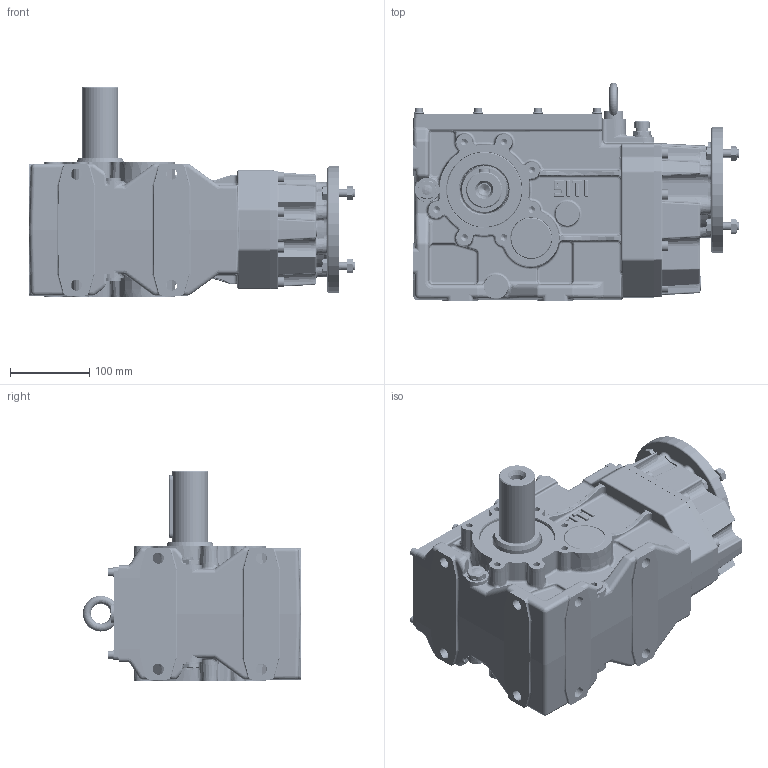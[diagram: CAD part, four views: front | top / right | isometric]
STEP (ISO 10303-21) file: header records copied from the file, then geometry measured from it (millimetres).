
FILE_DESCRIPTION((''),'2;1');
FILE_NAME('O:\Figurini\Figurini BH\3D\80\MBH 80 MS-B PAM 71 B5.stp','2013-05-31T16:09:21',('d.iannaccio'),(''),'Autodesk Inventor 2012','Autodesk Inventor 2012','');
FILE_SCHEMA(('AUTOMOTIVE_DESIGN { 1 0 10303 214 1 1 1 1 }'));
Length unit declared in the file: millimetre
Products named in the file (1): MBH_80 MS-B PAM 71 B5
Bounding box: 411.5 x 274.95 x 265 mm (x, y, z)
Volume: 4259871.3 mm3; surface area: 884522 mm2
Topology: 2 solids, 68 shells, 3846 faces, 9279 edges, 5588 vertices
Faces by surface type: plane 1120, cylinder 1063, bspline 800, cone 404, torus 356, sphere 103
Full cylindrical faces by diameter (mm): 4.917 x8, 6 x16, 6.4 x8, 6.647 x16, 7 x8, 8 x14, 8.376 x15, 8.5 x2, 9 x12, 10 x24, 11.445 x1, 12 x1, 12.5 x8, 13 x16, 13.835 x1, 14 x16, 14.63 x4, 14.95 x7, 15.95 x1, 16 x3, 17 x2, 18 x1, 19.5 x1, 20 x2, 20.4 x1, 25 x1, 33 x1, 34.58 x1, 34.9 x1, 34.98 x2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
Entity records: 133357 total; most frequent: CARTESIAN_POINT 47265, ORIENTED_EDGE 16890, DIRECTION 16585, EDGE_CURVE 8445, AXIS2_PLACEMENT_3D 6871, VERTEX_POINT 5367, EDGE_LOOP 4582, STYLED_ITEM 3847
